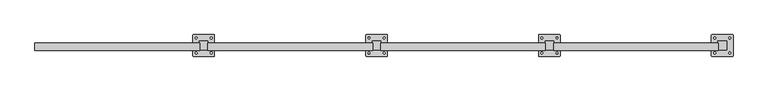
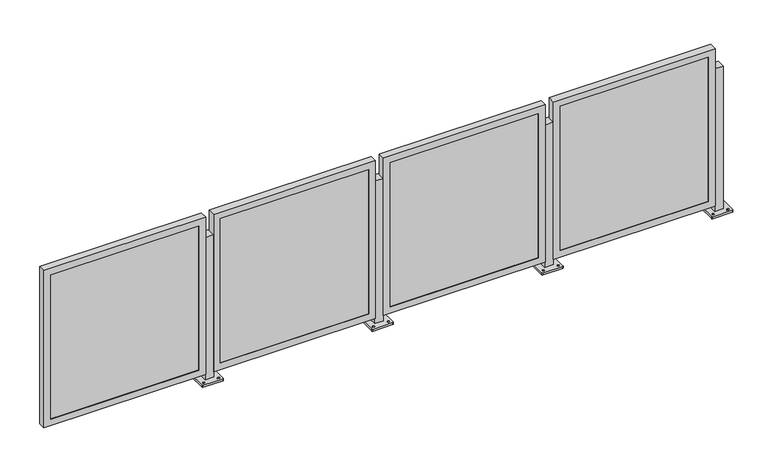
"""IFC4 building model written with IfcOpenShell, lengths in millimetres: railing geometry, Railing - Amico Architectural - Perforated Railing - Sunshade."""

from ifc_helpers import new_model, si_unit, frame, origin, place, context, project, spatial, polyline, circle_curve, outline, extrude, faceted_brep, source, transform, mapped, element, save
from ifc_brep_helpers import plane_surface, cylinder_surface, revolved_surface, advanced_brep


def railing_5091dd00(model_context):
    return source(origin(), model_context, "Body", "SolidModel", [
        advanced_brep(
        [(-3192.9530401, 2085.2064263, 914.4), (-3192.9530401, 2034.4064263, 914.4), (-3142.1530401, 2034.4064263, 914.4), (-3142.1530401, 2085.2064263, 914.4), (-3231.0530403, 1999.4814673, 0.0), (-3231.0530403, 2120.1313853, 0.0), (-3227.8780121, 2123.3064134, 0.0), (-3107.2280681, 2123.3064134, 0.0), (-3104.0530399, 2120.1313853, 0.0), (-3104.0530399, 1999.4814673, 0.0), (-3107.2280681, 1996.3064392, 0.0), (-3227.8780121, 1996.3064392, 0.0), (-3212.0030277, 2009.8001716, 0.0), (-3212.0030277, 2020.9126841, 0.0), (-3212.0030386, 2098.700176, 0.0), (-3212.0030386, 2109.8126576, 0.0), (-3123.1030267, 2009.8001732, 0.0), (-3123.1030267, 2020.9126838, 0.0), (-3123.1030376, 2098.7001776, 0.0), (-3123.1030376, 2109.8126574, 0.0), (-3192.9530401, 2085.2064263, 12.7), (-3192.9530401, 2034.4064263, 12.7), (-3142.1530401, 2034.4064263, 12.7), (-3142.1530401, 2085.2064263, 12.7), (-3231.0530403, 1999.4814673, 12.7), (-3227.8780121, 1996.3064392, 12.7), (-3107.2280681, 1996.3064392, 12.7), (-3104.0530399, 1999.4814673, 12.7), (-3104.0530399, 2120.1313853, 12.7), (-3107.2280681, 2123.3064134, 12.7), (-3227.8780121, 2123.3064134, 12.7), (-3231.0530403, 2120.1313853, 12.7), (-3212.0030277, 2009.8001716, 12.7), (-3212.0030277, 2020.9126841, 12.7), (-3212.0030386, 2098.700176, 12.7), (-3212.0030386, 2109.8126576, 12.7), (-3123.1030267, 2009.8001732, 12.7), (-3123.1030267, 2020.9126838, 12.7), (-3123.1030376, 2098.7001776, 12.7), (-3123.1030376, 2109.8126574, 12.7)],
        [
            (0, 1),
            (1, 2),
            (2, 3),
            (3, 0),
            (4, 5),
            (5, 6, circle_curve(frame((-3227.8780121, 2120.1313853, 0.0), z_axis=(0.0, 0.0, -1.0), x_axis=(0.0, 1.0, 0.0)), 3.1750282)),
            (6, 7),
            (7, 8, circle_curve(frame((-3107.2280681, 2120.1313853, 0.0), z_axis=(0.0, 0.0, -1.0), x_axis=(0.0, 1.0, 0.0)), 3.1750282)),
            (8, 9),
            (9, 10, circle_curve(frame((-3107.2280681, 1999.4814673, 0.0), z_axis=(0.0, 0.0, -1.0), x_axis=(0.0, 1.0, 0.0)), 3.1750282)),
            (10, 11),
            (11, 4, circle_curve(frame((-3227.8780121, 1999.4814673, 0.0), z_axis=(0.0, 0.0, -1.0), x_axis=(0.0, 1.0, 0.0)), 3.1750282)),
            (12, 13, circle_curve(frame((-3212.0030277, 2015.3564279, 0.0), z_axis=(0.0, 0.0, 1.0), x_axis=(0.0, 1.0, 0.0)), 5.5562562)),
            (13, 12, circle_curve(frame((-3212.0030277, 2015.3564279, 0.0), z_axis=(0.0, 0.0, 1.0), x_axis=(0.0, 1.0, 0.0)), 5.5562562)),
            (14, 15, circle_curve(frame((-3212.0030386, 2104.2564168, 0.0), z_axis=(0.0, 0.0, 1.0), x_axis=(0.0, 1.0, 0.0)), 5.5562408)),
            (15, 14, circle_curve(frame((-3212.0030386, 2104.2564168, 0.0), z_axis=(0.0, 0.0, 1.0), x_axis=(0.0, 1.0, 0.0)), 5.5562408)),
            (16, 17, circle_curve(frame((-3123.1030267, 2015.3564285, 0.0), z_axis=(0.0, 0.0, 1.0), x_axis=(0.0, 1.0, 0.0)), 5.5562553)),
            (17, 16, circle_curve(frame((-3123.1030267, 2015.3564285, 0.0), z_axis=(0.0, 0.0, 1.0), x_axis=(0.0, 1.0, 0.0)), 5.5562553)),
            (18, 19, circle_curve(frame((-3123.1030376, 2104.2564175, 0.0), z_axis=(0.0, 0.0, 1.0), x_axis=(0.0, 1.0, 0.0)), 5.5562399)),
            (19, 18, circle_curve(frame((-3123.1030376, 2104.2564175, 0.0), z_axis=(0.0, 0.0, 1.0), x_axis=(0.0, 1.0, 0.0)), 5.5562399)),
            (0, 20),
            (20, 21),
            (21, 1),
            (21, 22),
            (22, 2),
            (22, 23),
            (23, 3),
            (23, 20),
            (24, 25, circle_curve(frame((-3227.8780121, 1999.4814673, 12.7), z_axis=(0.0, 0.0, 1.0), x_axis=(0.0, 1.0, 0.0)), 3.1750282)),
            (25, 26),
            (26, 27, circle_curve(frame((-3107.2280681, 1999.4814673, 12.7), z_axis=(0.0, 0.0, 1.0), x_axis=(0.0, 1.0, 0.0)), 3.1750282)),
            (27, 28),
            (28, 29, circle_curve(frame((-3107.2280681, 2120.1313853, 12.7), z_axis=(0.0, 0.0, 1.0), x_axis=(0.0, 1.0, 0.0)), 3.1750282)),
            (29, 30),
            (30, 31, circle_curve(frame((-3227.8780121, 2120.1313853, 12.7), z_axis=(0.0, 0.0, 1.0), x_axis=(0.0, 1.0, 0.0)), 3.1750282)),
            (31, 24),
            (32, 33, circle_curve(frame((-3212.0030277, 2015.3564279, 12.7), z_axis=(0.0, 0.0, -1.0), x_axis=(0.0, 1.0, 0.0)), 5.5562562)),
            (33, 32, circle_curve(frame((-3212.0030277, 2015.3564279, 12.7), z_axis=(0.0, 0.0, -1.0), x_axis=(0.0, 1.0, 0.0)), 5.5562562)),
            (34, 35, circle_curve(frame((-3212.0030386, 2104.2564168, 12.7), z_axis=(0.0, 0.0, -1.0), x_axis=(0.0, 1.0, 0.0)), 5.5562408)),
            (35, 34, circle_curve(frame((-3212.0030386, 2104.2564168, 12.7), z_axis=(0.0, 0.0, -1.0), x_axis=(0.0, 1.0, 0.0)), 5.5562408)),
            (36, 37, circle_curve(frame((-3123.1030267, 2015.3564285, 12.7), z_axis=(0.0, 0.0, -1.0), x_axis=(0.0, 1.0, 0.0)), 5.5562553)),
            (37, 36, circle_curve(frame((-3123.1030267, 2015.3564285, 12.7), z_axis=(0.0, 0.0, -1.0), x_axis=(0.0, 1.0, 0.0)), 5.5562553)),
            (38, 39, circle_curve(frame((-3123.1030376, 2104.2564175, 12.7), z_axis=(0.0, 0.0, -1.0), x_axis=(0.0, 1.0, 0.0)), 5.5562399)),
            (39, 38, circle_curve(frame((-3123.1030376, 2104.2564175, 12.7), z_axis=(0.0, 0.0, -1.0), x_axis=(0.0, 1.0, 0.0)), 5.5562399)),
            (24, 4),
            (11, 25),
            (10, 26),
            (9, 27),
            (8, 28),
            (7, 29),
            (6, 30),
            (5, 31),
            (32, 12),
            (13, 33),
            (34, 14),
            (15, 35),
            (36, 16),
            (17, 37),
            (38, 18),
            (19, 39),
        ],
        [
            plane_surface(frame((-3192.9530401, 2034.4064263, 914.4), z_axis=(0.0, 0.0, 1.0), x_axis=(0.0, -1.0, 0.0))),
            plane_surface(frame((-3192.9530401, 2034.4064263, 0.0), z_axis=(0.0, 0.0, -1.0), x_axis=(0.0, 1.0, 0.0))),
            plane_surface(frame((-3192.9530401, 2085.2064263, 914.4), z_axis=(-1.0, 0.0, 0.0), x_axis=(0.0, 0.0, -1.0))),
            plane_surface(frame((-3192.9530401, 2034.4064263, 914.4), z_axis=(0.0, -1.0, 0.0), x_axis=(0.0, 0.0, -1.0))),
            plane_surface(frame((-3142.1530401, 2034.4064263, 914.4), z_axis=(1.0, 0.0, 0.0), x_axis=(0.0, 0.0, -1.0))),
            plane_surface(frame((-3142.1530401, 2085.2064263, 914.4), z_axis=(0.0, 1.0, 0.0), x_axis=(0.0, 0.0, -1.0))),
            plane_surface(frame((-3227.8780121, 2002.6564955, 12.7), z_axis=(0.0, 0.0, 1.0), x_axis=(-1.0, 0.0, 0.0))),
            cylinder_surface(frame((-3227.8780121, 1999.4814673, 0.0), z_axis=(0.0, 0.0, 1.0), x_axis=(0.0, 1.0, 0.0)), 3.1750282),
            plane_surface(frame((-3227.8780121, 1996.3064392, 12.7), z_axis=(1.1945386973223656e-12, -1.0, 0.0), x_axis=(0.0, 0.0, -1.0))),
            cylinder_surface(frame((-3107.2280681, 1999.4814673, 0.0), z_axis=(0.0, 0.0, 1.0), x_axis=(0.0, 1.0, 0.0)), 3.1750282),
            plane_surface(frame((-3104.0530399, 1999.4814673, 12.7), z_axis=(1.0, 0.0, 0.0), x_axis=(0.0, 0.0, -1.0))),
            cylinder_surface(frame((-3107.2280681, 2120.1313853, 0.0), z_axis=(0.0, 0.0, 1.0), x_axis=(0.0, 1.0, 0.0)), 3.1750282),
            plane_surface(frame((-3107.2280681, 2123.3064134, 12.7), z_axis=(-1.1946088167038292e-12, 1.0, 0.0), x_axis=(0.0, 0.0, -1.0))),
            cylinder_surface(frame((-3227.8780121, 2120.1313853, 0.0), z_axis=(0.0, 0.0, 1.0), x_axis=(0.0, 1.0, 0.0)), 3.1750282),
            plane_surface(frame((-3231.0530403, 2120.1313853, 12.7), z_axis=(-1.0, 0.0, 0.0), x_axis=(0.0, 0.0, -1.0))),
            revolved_surface(polyline([(-3212.0030277, 2020.9126841, 0.0), (-3212.0030277, 2020.9126841, 12.7)]), (-3212.0030277, 2015.3564279, 0.0), (0.0, 0.0, -1.0)),
            revolved_surface(polyline([(-3212.0030386, 2109.8126576, 0.0), (-3212.0030386, 2109.8126576, 12.7)]), (-3212.0030386, 2104.2564168, 0.0), (0.0, 0.0, -1.0)),
            revolved_surface(polyline([(-3123.1030267, 2020.9126838, 0.0), (-3123.1030267, 2020.9126838, 12.7)]), (-3123.1030267, 2015.3564285, 0.0), (0.0, 0.0, -1.0)),
            revolved_surface(polyline([(-3123.1030376, 2109.8126574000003, 0.0), (-3123.1030376, 2109.8126574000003, 12.7)]), (-3123.1030376, 2104.2564175, 0.0), (0.0, 0.0, -1.0)),
        ],
        [
            (0, [[1, 2, 3, 4]]),
            (1, [[5, 6, 7, 8, 9, 10, 11, 12], [13, 14], [15, 16], [17, 18], [19, 20]]),
            (2, [[-1, 21, 22, 23]]),
            (3, [[-2, -23, 24, 25]]),
            (4, [[-3, -25, 26, 27]]),
            (5, [[-4, -27, 28, -21]]),
            (6, [[29, 30, 31, 32, 33, 34, 35, 36], [-22, -28, -26, -24], [37, 38], [39, 40], [41, 42], [43, 44]]),
            (7, [[-29, 45, -12, 46]]),
            (8, [[-30, -46, -11, 47]]),
            (9, [[-31, -47, -10, 48]]),
            (10, [[-32, -48, -9, 49]]),
            (11, [[-33, -49, -8, 50]]),
            (12, [[-34, -50, -7, 51]]),
            (13, [[-35, -51, -6, 52]]),
            (14, [[-36, -52, -5, -45]]),
            (15, [[-37, 53, -14, 54]]),
            (15, [[-38, -54, -13, -53]]),
            (16, [[-39, 55, -16, 56]]),
            (16, [[-40, -56, -15, -55]]),
            (17, [[-41, 57, -18, 58]]),
            (17, [[-42, -58, -17, -57]]),
            (18, [[-43, 59, -20, 60]]),
            (18, [[-44, -60, -19, -59]]),
        ],
    ),
        faceted_brep([(-4159.3574935, 2031.6632263, 47.625), (-3190.9824935, 2031.6632263, 47.625), (-3190.9824935, 2031.6632263, 1044.575), (-4159.3574935, 2031.6632263, 1044.575), (-4118.0824935, 2031.6632263, 1003.3), (-3232.2574935, 2031.6632263, 1003.3), (-3232.2574935, 2031.6632263, 88.9), (-4118.0824935, 2031.6632263, 88.9), (-4118.0824935, 2034.4064263, 1003.3), (-4118.0824935, 2034.4064263, 88.9), (-4159.3574935, 2075.5365228, 1044.575), (-4159.3574935, 2075.5365228, 47.625), (-4156.1824935, 2075.5365228, 1041.4), (-4156.1824935, 2034.4064263, 1041.4), (-4156.1824935, 2034.4064263, 50.8), (-4156.1824935, 2075.5365228, 50.8), (-3232.2574935, 2034.4064263, 88.9), (-3190.9824935, 2075.5365228, 47.625), (-3194.1574935, 2034.4064263, 50.8), (-3194.1574935, 2075.5365228, 50.8), (-3232.2574935, 2034.4064263, 1003.3), (-3190.9824935, 2075.5365228, 1044.575), (-3194.1574935, 2034.4064263, 1041.4), (-3194.1574935, 2075.5365228, 1041.4)], [[[0, 1, 2, 3], [4, 5, 6, 7]], [[8, 4, 7, 9]], [[3, 10, 11, 0]], [[12, 13, 14, 15]], [[9, 7, 6, 16]], [[0, 11, 17, 1]], [[15, 14, 18, 19]], [[16, 6, 5, 20]], [[1, 17, 21, 2]], [[19, 18, 22, 23]], [[20, 5, 4, 8]], [[10, 21, 17, 11], [15, 19, 23, 12]], [[2, 21, 10, 3]], [[13, 22, 18, 14], [9, 16, 20, 8]], [[23, 22, 13, 12]]]),
        extrude(outline(polyline([(-4156.1824935, 2043.9314263), (-3194.1574935, 2043.9314263), (-3194.1574935, 2034.4064263), (-4156.1824935, 2034.4064263), (-4156.1824935, 2043.9314263)])), frame((0.0, 0.0, 50.8), z_axis=(0.0, 0.0, 1.0), x_axis=(1.0, 0.0, 0.0)), (0.0, 0.0, 1.0), 990.6),
        advanced_brep(
        [(-4208.9530401, 2085.2064263, 914.4), (-4208.9530401, 2034.4064263, 914.4), (-4158.1530401, 2034.4064263, 914.4), (-4158.1530401, 2085.2064263, 914.4), (-4247.0530403, 1999.4814673, 0.0), (-4247.0530403, 2120.1313853, 0.0), (-4243.8780121, 2123.3064134, 0.0), (-4123.2280681, 2123.3064134, 0.0), (-4120.0530399, 2120.1313853, 0.0), (-4120.0530399, 1999.4814673, 0.0), (-4123.2280681, 1996.3064392, 0.0), (-4243.8780121, 1996.3064392, 0.0), (-4228.0030277, 2009.8001716, 0.0), (-4228.0030277, 2020.9126841, 0.0), (-4228.0030386, 2098.700176, 0.0), (-4228.0030386, 2109.8126576, 0.0), (-4139.1030267, 2009.8001732, 0.0), (-4139.1030267, 2020.9126838, 0.0), (-4139.1030376, 2098.7001776, 0.0), (-4139.1030376, 2109.8126574, 0.0), (-4208.9530401, 2085.2064263, 12.7), (-4208.9530401, 2034.4064263, 12.7), (-4158.1530401, 2034.4064263, 12.7), (-4158.1530401, 2085.2064263, 12.7), (-4247.0530403, 1999.4814673, 12.7), (-4243.8780121, 1996.3064392, 12.7), (-4123.2280681, 1996.3064392, 12.7), (-4120.0530399, 1999.4814673, 12.7), (-4120.0530399, 2120.1313853, 12.7), (-4123.2280681, 2123.3064134, 12.7), (-4243.8780121, 2123.3064134, 12.7), (-4247.0530403, 2120.1313853, 12.7), (-4228.0030277, 2009.8001716, 12.7), (-4228.0030277, 2020.9126841, 12.7), (-4228.0030386, 2098.700176, 12.7), (-4228.0030386, 2109.8126576, 12.7), (-4139.1030267, 2009.8001732, 12.7), (-4139.1030267, 2020.9126838, 12.7), (-4139.1030376, 2098.7001776, 12.7), (-4139.1030376, 2109.8126574, 12.7)],
        [
            (0, 1),
            (1, 2),
            (2, 3),
            (3, 0),
            (4, 5),
            (5, 6, circle_curve(frame((-4243.8780121, 2120.1313853, 0.0), z_axis=(0.0, 0.0, -1.0), x_axis=(0.0, 1.0, 0.0)), 3.1750282)),
            (6, 7),
            (7, 8, circle_curve(frame((-4123.2280681, 2120.1313853, 0.0), z_axis=(0.0, 0.0, -1.0), x_axis=(0.0, 1.0, 0.0)), 3.1750282)),
            (8, 9),
            (9, 10, circle_curve(frame((-4123.2280681, 1999.4814673, 0.0), z_axis=(0.0, 0.0, -1.0), x_axis=(0.0, 1.0, 0.0)), 3.1750282)),
            (10, 11),
            (11, 4, circle_curve(frame((-4243.8780121, 1999.4814673, 0.0), z_axis=(0.0, 0.0, -1.0), x_axis=(0.0, 1.0, 0.0)), 3.1750282)),
            (12, 13, circle_curve(frame((-4228.0030277, 2015.3564279, 0.0), z_axis=(0.0, 0.0, 1.0), x_axis=(0.0, 1.0, 0.0)), 5.5562562)),
            (13, 12, circle_curve(frame((-4228.0030277, 2015.3564279, 0.0), z_axis=(0.0, 0.0, 1.0), x_axis=(0.0, 1.0, 0.0)), 5.5562562)),
            (14, 15, circle_curve(frame((-4228.0030386, 2104.2564168, 0.0), z_axis=(0.0, 0.0, 1.0), x_axis=(0.0, 1.0, 0.0)), 5.5562408)),
            (15, 14, circle_curve(frame((-4228.0030386, 2104.2564168, 0.0), z_axis=(0.0, 0.0, 1.0), x_axis=(0.0, 1.0, 0.0)), 5.5562408)),
            (16, 17, circle_curve(frame((-4139.1030267, 2015.3564285, 0.0), z_axis=(0.0, 0.0, 1.0), x_axis=(0.0, 1.0, 0.0)), 5.5562553)),
            (17, 16, circle_curve(frame((-4139.1030267, 2015.3564285, 0.0), z_axis=(0.0, 0.0, 1.0), x_axis=(0.0, 1.0, 0.0)), 5.5562553)),
            (18, 19, circle_curve(frame((-4139.1030376, 2104.2564175, 0.0), z_axis=(0.0, 0.0, 1.0), x_axis=(0.0, 1.0, 0.0)), 5.5562399)),
            (19, 18, circle_curve(frame((-4139.1030376, 2104.2564175, 0.0), z_axis=(0.0, 0.0, 1.0), x_axis=(0.0, 1.0, 0.0)), 5.5562399)),
            (0, 20),
            (20, 21),
            (21, 1),
            (21, 22),
            (22, 2),
            (22, 23),
            (23, 3),
            (23, 20),
            (24, 25, circle_curve(frame((-4243.8780121, 1999.4814673, 12.7), z_axis=(0.0, 0.0, 1.0), x_axis=(0.0, 1.0, 0.0)), 3.1750282)),
            (25, 26),
            (26, 27, circle_curve(frame((-4123.2280681, 1999.4814673, 12.7), z_axis=(0.0, 0.0, 1.0), x_axis=(0.0, 1.0, 0.0)), 3.1750282)),
            (27, 28),
            (28, 29, circle_curve(frame((-4123.2280681, 2120.1313853, 12.7), z_axis=(0.0, 0.0, 1.0), x_axis=(0.0, 1.0, 0.0)), 3.1750282)),
            (29, 30),
            (30, 31, circle_curve(frame((-4243.8780121, 2120.1313853, 12.7), z_axis=(0.0, 0.0, 1.0), x_axis=(0.0, 1.0, 0.0)), 3.1750282)),
            (31, 24),
            (32, 33, circle_curve(frame((-4228.0030277, 2015.3564279, 12.7), z_axis=(0.0, 0.0, -1.0), x_axis=(0.0, 1.0, 0.0)), 5.5562562)),
            (33, 32, circle_curve(frame((-4228.0030277, 2015.3564279, 12.7), z_axis=(0.0, 0.0, -1.0), x_axis=(0.0, 1.0, 0.0)), 5.5562562)),
            (34, 35, circle_curve(frame((-4228.0030386, 2104.2564168, 12.7), z_axis=(0.0, 0.0, -1.0), x_axis=(0.0, 1.0, 0.0)), 5.5562408)),
            (35, 34, circle_curve(frame((-4228.0030386, 2104.2564168, 12.7), z_axis=(0.0, 0.0, -1.0), x_axis=(0.0, 1.0, 0.0)), 5.5562408)),
            (36, 37, circle_curve(frame((-4139.1030267, 2015.3564285, 12.7), z_axis=(0.0, 0.0, -1.0), x_axis=(0.0, 1.0, 0.0)), 5.5562553)),
            (37, 36, circle_curve(frame((-4139.1030267, 2015.3564285, 12.7), z_axis=(0.0, 0.0, -1.0), x_axis=(0.0, 1.0, 0.0)), 5.5562553)),
            (38, 39, circle_curve(frame((-4139.1030376, 2104.2564175, 12.7), z_axis=(0.0, 0.0, -1.0), x_axis=(0.0, 1.0, 0.0)), 5.5562399)),
            (39, 38, circle_curve(frame((-4139.1030376, 2104.2564175, 12.7), z_axis=(0.0, 0.0, -1.0), x_axis=(0.0, 1.0, 0.0)), 5.5562399)),
            (24, 4),
            (11, 25),
            (10, 26),
            (9, 27),
            (8, 28),
            (7, 29),
            (6, 30),
            (5, 31),
            (32, 12),
            (13, 33),
            (34, 14),
            (15, 35),
            (36, 16),
            (17, 37),
            (38, 18),
            (19, 39),
        ],
        [
            plane_surface(frame((-4208.9530401, 2034.4064263, 914.4), z_axis=(0.0, 0.0, 1.0), x_axis=(0.0, -1.0, 0.0))),
            plane_surface(frame((-4208.9530401, 2034.4064263, 0.0), z_axis=(0.0, 0.0, -1.0), x_axis=(0.0, 1.0, 0.0))),
            plane_surface(frame((-4208.9530401, 2085.2064263, 914.4), z_axis=(-1.0, 0.0, 0.0), x_axis=(0.0, 0.0, -1.0))),
            plane_surface(frame((-4208.9530401, 2034.4064263, 914.4), z_axis=(0.0, -1.0, 0.0), x_axis=(0.0, 0.0, -1.0))),
            plane_surface(frame((-4158.1530401, 2034.4064263, 914.4), z_axis=(1.0, 0.0, 0.0), x_axis=(0.0, 0.0, -1.0))),
            plane_surface(frame((-4158.1530401, 2085.2064263, 914.4), z_axis=(0.0, 1.0, 0.0), x_axis=(0.0, 0.0, -1.0))),
            plane_surface(frame((-4243.8780121, 2002.6564955, 12.7), z_axis=(0.0, 0.0, 1.0), x_axis=(-1.0, 0.0, 0.0))),
            cylinder_surface(frame((-4243.8780121, 1999.4814673, 0.0), z_axis=(0.0, 0.0, 1.0), x_axis=(0.0, 1.0, 0.0)), 3.1750282),
            plane_surface(frame((-4243.8780121, 1996.3064392, 12.7), z_axis=(1.1945386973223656e-12, -1.0, 0.0), x_axis=(0.0, 0.0, -1.0))),
            cylinder_surface(frame((-4123.2280681, 1999.4814673, 0.0), z_axis=(0.0, 0.0, 1.0), x_axis=(0.0, 1.0, 0.0)), 3.1750282),
            plane_surface(frame((-4120.0530399, 1999.4814673, 12.7), z_axis=(1.0, 0.0, 0.0), x_axis=(0.0, 0.0, -1.0))),
            cylinder_surface(frame((-4123.2280681, 2120.1313853, 0.0), z_axis=(0.0, 0.0, 1.0), x_axis=(0.0, 1.0, 0.0)), 3.1750282),
            plane_surface(frame((-4123.2280681, 2123.3064134, 12.7), z_axis=(-1.1946088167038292e-12, 1.0, 0.0), x_axis=(0.0, 0.0, -1.0))),
            cylinder_surface(frame((-4243.8780121, 2120.1313853, 0.0), z_axis=(0.0, 0.0, 1.0), x_axis=(0.0, 1.0, 0.0)), 3.1750282),
            plane_surface(frame((-4247.0530403, 2120.1313853, 12.7), z_axis=(-1.0, 0.0, 0.0), x_axis=(0.0, 0.0, -1.0))),
            revolved_surface(polyline([(-4228.0030277, 2020.9126841, 0.0), (-4228.0030277, 2020.9126841, 12.7)]), (-4228.0030277, 2015.3564279, 0.0), (0.0, 0.0, -1.0)),
            revolved_surface(polyline([(-4228.0030386, 2109.8126576, 0.0), (-4228.0030386, 2109.8126576, 12.7)]), (-4228.0030386, 2104.2564168, 0.0), (0.0, 0.0, -1.0)),
            revolved_surface(polyline([(-4139.1030267, 2020.9126838, 0.0), (-4139.1030267, 2020.9126838, 12.7)]), (-4139.1030267, 2015.3564285, 0.0), (0.0, 0.0, -1.0)),
            revolved_surface(polyline([(-4139.1030376, 2109.8126574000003, 0.0), (-4139.1030376, 2109.8126574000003, 12.7)]), (-4139.1030376, 2104.2564175, 0.0), (0.0, 0.0, -1.0)),
        ],
        [
            (0, [[1, 2, 3, 4]]),
            (1, [[5, 6, 7, 8, 9, 10, 11, 12], [13, 14], [15, 16], [17, 18], [19, 20]]),
            (2, [[-1, 21, 22, 23]]),
            (3, [[-2, -23, 24, 25]]),
            (4, [[-3, -25, 26, 27]]),
            (5, [[-4, -27, 28, -21]]),
            (6, [[29, 30, 31, 32, 33, 34, 35, 36], [-22, -28, -26, -24], [37, 38], [39, 40], [41, 42], [43, 44]]),
            (7, [[-29, 45, -12, 46]]),
            (8, [[-30, -46, -11, 47]]),
            (9, [[-31, -47, -10, 48]]),
            (10, [[-32, -48, -9, 49]]),
            (11, [[-33, -49, -8, 50]]),
            (12, [[-34, -50, -7, 51]]),
            (13, [[-35, -51, -6, 52]]),
            (14, [[-36, -52, -5, -45]]),
            (15, [[-37, 53, -14, 54]]),
            (15, [[-38, -54, -13, -53]]),
            (16, [[-39, 55, -16, 56]]),
            (16, [[-40, -56, -15, -55]]),
            (17, [[-41, 57, -18, 58]]),
            (17, [[-42, -58, -17, -57]]),
            (18, [[-43, 59, -20, 60]]),
            (18, [[-44, -60, -19, -59]]),
        ],
    ),
        faceted_brep([(-5175.3574935, 2031.6632263, 47.625), (-4206.9824935, 2031.6632263, 47.625), (-4206.9824935, 2031.6632263, 1044.575), (-5175.3574935, 2031.6632263, 1044.575), (-5134.0824935, 2031.6632263, 1003.3), (-4248.2574935, 2031.6632263, 1003.3), (-4248.2574935, 2031.6632263, 88.9), (-5134.0824935, 2031.6632263, 88.9), (-5134.0824935, 2034.4064263, 1003.3), (-5134.0824935, 2034.4064263, 88.9), (-5175.3574935, 2075.5365228, 1044.575), (-5175.3574935, 2075.5365228, 47.625), (-5172.1824935, 2075.5365228, 1041.4), (-5172.1824935, 2034.4064263, 1041.4), (-5172.1824935, 2034.4064263, 50.8), (-5172.1824935, 2075.5365228, 50.8), (-4248.2574935, 2034.4064263, 88.9), (-4206.9824935, 2075.5365228, 47.625), (-4210.1574935, 2034.4064263, 50.8), (-4210.1574935, 2075.5365228, 50.8), (-4248.2574935, 2034.4064263, 1003.3), (-4206.9824935, 2075.5365228, 1044.575), (-4210.1574935, 2034.4064263, 1041.4), (-4210.1574935, 2075.5365228, 1041.4)], [[[0, 1, 2, 3], [4, 5, 6, 7]], [[8, 4, 7, 9]], [[3, 10, 11, 0]], [[12, 13, 14, 15]], [[9, 7, 6, 16]], [[0, 11, 17, 1]], [[15, 14, 18, 19]], [[16, 6, 5, 20]], [[1, 17, 21, 2]], [[19, 18, 22, 23]], [[20, 5, 4, 8]], [[10, 21, 17, 11], [15, 19, 23, 12]], [[2, 21, 10, 3]], [[13, 22, 18, 14], [9, 16, 20, 8]], [[23, 22, 13, 12]]]),
        extrude(outline(polyline([(-5172.1824935, 2043.9314263), (-4210.1574935, 2043.9314263), (-4210.1574935, 2034.4064263), (-5172.1824935, 2034.4064263), (-5172.1824935, 2043.9314263)])), frame((0.0, 0.0, 50.8), z_axis=(0.0, 0.0, 1.0), x_axis=(1.0, 0.0, 0.0)), (0.0, 0.0, 1.0), 990.6),
        advanced_brep(
        [(-5224.9530401, 2085.2064263, 914.4), (-5224.9530401, 2034.4064263, 914.4), (-5174.1530401, 2034.4064263, 914.4), (-5174.1530401, 2085.2064263, 914.4), (-5263.0530403, 1999.4814673, 0.0), (-5263.0530403, 2120.1313853, 0.0), (-5259.8780121, 2123.3064134, 0.0), (-5139.2280681, 2123.3064134, 0.0), (-5136.0530399, 2120.1313853, 0.0), (-5136.0530399, 1999.4814673, 0.0), (-5139.2280681, 1996.3064392, 0.0), (-5259.8780121, 1996.3064392, 0.0), (-5244.0030277, 2009.8001716, 0.0), (-5244.0030277, 2020.9126841, 0.0), (-5244.0030386, 2098.700176, 0.0), (-5244.0030386, 2109.8126576, 0.0), (-5155.1030267, 2009.8001732, 0.0), (-5155.1030267, 2020.9126838, 0.0), (-5155.1030376, 2098.7001776, 0.0), (-5155.1030376, 2109.8126574, 0.0), (-5224.9530401, 2085.2064263, 12.7), (-5224.9530401, 2034.4064263, 12.7), (-5174.1530401, 2034.4064263, 12.7), (-5174.1530401, 2085.2064263, 12.7), (-5263.0530403, 1999.4814673, 12.7), (-5259.8780121, 1996.3064392, 12.7), (-5139.2280681, 1996.3064392, 12.7), (-5136.0530399, 1999.4814673, 12.7), (-5136.0530399, 2120.1313853, 12.7), (-5139.2280681, 2123.3064134, 12.7), (-5259.8780121, 2123.3064134, 12.7), (-5263.0530403, 2120.1313853, 12.7), (-5244.0030277, 2009.8001716, 12.7), (-5244.0030277, 2020.9126841, 12.7), (-5244.0030386, 2098.700176, 12.7), (-5244.0030386, 2109.8126576, 12.7), (-5155.1030267, 2009.8001732, 12.7), (-5155.1030267, 2020.9126838, 12.7), (-5155.1030376, 2098.7001776, 12.7), (-5155.1030376, 2109.8126574, 12.7)],
        [
            (0, 1),
            (1, 2),
            (2, 3),
            (3, 0),
            (4, 5),
            (5, 6, circle_curve(frame((-5259.8780121, 2120.1313853, 0.0), z_axis=(0.0, 0.0, -1.0), x_axis=(0.0, 1.0, 0.0)), 3.1750282)),
            (6, 7),
            (7, 8, circle_curve(frame((-5139.2280681, 2120.1313853, 0.0), z_axis=(0.0, 0.0, -1.0), x_axis=(0.0, 1.0, 0.0)), 3.1750282)),
            (8, 9),
            (9, 10, circle_curve(frame((-5139.2280681, 1999.4814673, 0.0), z_axis=(0.0, 0.0, -1.0), x_axis=(0.0, 1.0, 0.0)), 3.1750282)),
            (10, 11),
            (11, 4, circle_curve(frame((-5259.8780121, 1999.4814673, 0.0), z_axis=(0.0, 0.0, -1.0), x_axis=(0.0, 1.0, 0.0)), 3.1750282)),
            (12, 13, circle_curve(frame((-5244.0030277, 2015.3564279, 0.0), z_axis=(0.0, 0.0, 1.0), x_axis=(0.0, 1.0, 0.0)), 5.5562562)),
            (13, 12, circle_curve(frame((-5244.0030277, 2015.3564279, 0.0), z_axis=(0.0, 0.0, 1.0), x_axis=(0.0, 1.0, 0.0)), 5.5562562)),
            (14, 15, circle_curve(frame((-5244.0030386, 2104.2564168, 0.0), z_axis=(0.0, 0.0, 1.0), x_axis=(0.0, 1.0, 0.0)), 5.5562408)),
            (15, 14, circle_curve(frame((-5244.0030386, 2104.2564168, 0.0), z_axis=(0.0, 0.0, 1.0), x_axis=(0.0, 1.0, 0.0)), 5.5562408)),
            (16, 17, circle_curve(frame((-5155.1030267, 2015.3564285, 0.0), z_axis=(0.0, 0.0, 1.0), x_axis=(0.0, 1.0, 0.0)), 5.5562553)),
            (17, 16, circle_curve(frame((-5155.1030267, 2015.3564285, 0.0), z_axis=(0.0, 0.0, 1.0), x_axis=(0.0, 1.0, 0.0)), 5.5562553)),
            (18, 19, circle_curve(frame((-5155.1030376, 2104.2564175, 0.0), z_axis=(0.0, 0.0, 1.0), x_axis=(0.0, 1.0, 0.0)), 5.5562399)),
            (19, 18, circle_curve(frame((-5155.1030376, 2104.2564175, 0.0), z_axis=(0.0, 0.0, 1.0), x_axis=(0.0, 1.0, 0.0)), 5.5562399)),
            (0, 20),
            (20, 21),
            (21, 1),
            (21, 22),
            (22, 2),
            (22, 23),
            (23, 3),
            (23, 20),
            (24, 25, circle_curve(frame((-5259.8780121, 1999.4814673, 12.7), z_axis=(0.0, 0.0, 1.0), x_axis=(0.0, 1.0, 0.0)), 3.1750282)),
            (25, 26),
            (26, 27, circle_curve(frame((-5139.2280681, 1999.4814673, 12.7), z_axis=(0.0, 0.0, 1.0), x_axis=(0.0, 1.0, 0.0)), 3.1750282)),
            (27, 28),
            (28, 29, circle_curve(frame((-5139.2280681, 2120.1313853, 12.7), z_axis=(0.0, 0.0, 1.0), x_axis=(0.0, 1.0, 0.0)), 3.1750282)),
            (29, 30),
            (30, 31, circle_curve(frame((-5259.8780121, 2120.1313853, 12.7), z_axis=(0.0, 0.0, 1.0), x_axis=(0.0, 1.0, 0.0)), 3.1750282)),
            (31, 24),
            (32, 33, circle_curve(frame((-5244.0030277, 2015.3564279, 12.7), z_axis=(0.0, 0.0, -1.0), x_axis=(0.0, 1.0, 0.0)), 5.5562562)),
            (33, 32, circle_curve(frame((-5244.0030277, 2015.3564279, 12.7), z_axis=(0.0, 0.0, -1.0), x_axis=(0.0, 1.0, 0.0)), 5.5562562)),
            (34, 35, circle_curve(frame((-5244.0030386, 2104.2564168, 12.7), z_axis=(0.0, 0.0, -1.0), x_axis=(0.0, 1.0, 0.0)), 5.5562408)),
            (35, 34, circle_curve(frame((-5244.0030386, 2104.2564168, 12.7), z_axis=(0.0, 0.0, -1.0), x_axis=(0.0, 1.0, 0.0)), 5.5562408)),
            (36, 37, circle_curve(frame((-5155.1030267, 2015.3564285, 12.7), z_axis=(0.0, 0.0, -1.0), x_axis=(0.0, 1.0, 0.0)), 5.5562553)),
            (37, 36, circle_curve(frame((-5155.1030267, 2015.3564285, 12.7), z_axis=(0.0, 0.0, -1.0), x_axis=(0.0, 1.0, 0.0)), 5.5562553)),
            (38, 39, circle_curve(frame((-5155.1030376, 2104.2564175, 12.7), z_axis=(0.0, 0.0, -1.0), x_axis=(0.0, 1.0, 0.0)), 5.5562399)),
            (39, 38, circle_curve(frame((-5155.1030376, 2104.2564175, 12.7), z_axis=(0.0, 0.0, -1.0), x_axis=(0.0, 1.0, 0.0)), 5.5562399)),
            (24, 4),
            (11, 25),
            (10, 26),
            (9, 27),
            (8, 28),
            (7, 29),
            (6, 30),
            (5, 31),
            (32, 12),
            (13, 33),
            (34, 14),
            (15, 35),
            (36, 16),
            (17, 37),
            (38, 18),
            (19, 39),
        ],
        [
            plane_surface(frame((-5224.9530401, 2034.4064263, 914.4), z_axis=(0.0, 0.0, 1.0), x_axis=(0.0, -1.0, 0.0))),
            plane_surface(frame((-5224.9530401, 2034.4064263, 0.0), z_axis=(0.0, 0.0, -1.0), x_axis=(0.0, 1.0, 0.0))),
            plane_surface(frame((-5224.9530401, 2085.2064263, 914.4), z_axis=(-1.0, 0.0, 0.0), x_axis=(0.0, 0.0, -1.0))),
            plane_surface(frame((-5224.9530401, 2034.4064263, 914.4), z_axis=(0.0, -1.0, 0.0), x_axis=(0.0, 0.0, -1.0))),
            plane_surface(frame((-5174.1530401, 2034.4064263, 914.4), z_axis=(1.0, 0.0, 0.0), x_axis=(0.0, 0.0, -1.0))),
            plane_surface(frame((-5174.1530401, 2085.2064263, 914.4), z_axis=(0.0, 1.0, 0.0), x_axis=(0.0, 0.0, -1.0))),
            plane_surface(frame((-5259.8780121, 2002.6564955, 12.7), z_axis=(0.0, 0.0, 1.0), x_axis=(-1.0, 0.0, 0.0))),
            cylinder_surface(frame((-5259.8780121, 1999.4814673, 0.0), z_axis=(0.0, 0.0, 1.0), x_axis=(0.0, 1.0, 0.0)), 3.1750282),
            plane_surface(frame((-5259.8780121, 1996.3064392, 12.7), z_axis=(1.1945386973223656e-12, -1.0, 0.0), x_axis=(0.0, 0.0, -1.0))),
            cylinder_surface(frame((-5139.2280681, 1999.4814673, 0.0), z_axis=(0.0, 0.0, 1.0), x_axis=(0.0, 1.0, 0.0)), 3.1750282),
            plane_surface(frame((-5136.0530399, 1999.4814673, 12.7), z_axis=(1.0, 0.0, 0.0), x_axis=(0.0, 0.0, -1.0))),
            cylinder_surface(frame((-5139.2280681, 2120.1313853, 0.0), z_axis=(0.0, 0.0, 1.0), x_axis=(0.0, 1.0, 0.0)), 3.1750282),
            plane_surface(frame((-5139.2280681, 2123.3064134, 12.7), z_axis=(-1.1946088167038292e-12, 1.0, 0.0), x_axis=(0.0, 0.0, -1.0))),
            cylinder_surface(frame((-5259.8780121, 2120.1313853, 0.0), z_axis=(0.0, 0.0, 1.0), x_axis=(0.0, 1.0, 0.0)), 3.1750282),
            plane_surface(frame((-5263.0530403, 2120.1313853, 12.7), z_axis=(-1.0, 0.0, 0.0), x_axis=(0.0, 0.0, -1.0))),
            revolved_surface(polyline([(-5244.0030277, 2020.9126841, 0.0), (-5244.0030277, 2020.9126841, 12.7)]), (-5244.0030277, 2015.3564279, 0.0), (0.0, 0.0, -1.0)),
            revolved_surface(polyline([(-5244.0030386, 2109.8126576, 0.0), (-5244.0030386, 2109.8126576, 12.7)]), (-5244.0030386, 2104.2564168, 0.0), (0.0, 0.0, -1.0)),
            revolved_surface(polyline([(-5155.1030267, 2020.9126838, 0.0), (-5155.1030267, 2020.9126838, 12.7)]), (-5155.1030267, 2015.3564285, 0.0), (0.0, 0.0, -1.0)),
            revolved_surface(polyline([(-5155.1030376, 2109.8126574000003, 0.0), (-5155.1030376, 2109.8126574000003, 12.7)]), (-5155.1030376, 2104.2564175, 0.0), (0.0, 0.0, -1.0)),
        ],
        [
            (0, [[1, 2, 3, 4]]),
            (1, [[5, 6, 7, 8, 9, 10, 11, 12], [13, 14], [15, 16], [17, 18], [19, 20]]),
            (2, [[-1, 21, 22, 23]]),
            (3, [[-2, -23, 24, 25]]),
            (4, [[-3, -25, 26, 27]]),
            (5, [[-4, -27, 28, -21]]),
            (6, [[29, 30, 31, 32, 33, 34, 35, 36], [-22, -28, -26, -24], [37, 38], [39, 40], [41, 42], [43, 44]]),
            (7, [[-29, 45, -12, 46]]),
            (8, [[-30, -46, -11, 47]]),
            (9, [[-31, -47, -10, 48]]),
            (10, [[-32, -48, -9, 49]]),
            (11, [[-33, -49, -8, 50]]),
            (12, [[-34, -50, -7, 51]]),
            (13, [[-35, -51, -6, 52]]),
            (14, [[-36, -52, -5, -45]]),
            (15, [[-37, 53, -14, 54]]),
            (15, [[-38, -54, -13, -53]]),
            (16, [[-39, 55, -16, 56]]),
            (16, [[-40, -56, -15, -55]]),
            (17, [[-41, 57, -18, 58]]),
            (17, [[-42, -58, -17, -57]]),
            (18, [[-43, 59, -20, 60]]),
            (18, [[-44, -60, -19, -59]]),
        ],
    ),
        faceted_brep([(-6191.3574935, 2031.6632263, 47.625), (-5222.9824935, 2031.6632263, 47.625), (-5222.9824935, 2031.6632263, 1044.575), (-6191.3574935, 2031.6632263, 1044.575), (-6150.0824935, 2031.6632263, 1003.3), (-5264.2574935, 2031.6632263, 1003.3), (-5264.2574935, 2031.6632263, 88.9), (-6150.0824935, 2031.6632263, 88.9), (-6150.0824935, 2034.4064263, 1003.3), (-6150.0824935, 2034.4064263, 88.9), (-6191.3574935, 2075.5365228, 1044.575), (-6191.3574935, 2075.5365228, 47.625), (-6188.1824935, 2075.5365228, 1041.4), (-6188.1824935, 2034.4064263, 1041.4), (-6188.1824935, 2034.4064263, 50.8), (-6188.1824935, 2075.5365228, 50.8), (-5264.2574935, 2034.4064263, 88.9), (-5222.9824935, 2075.5365228, 47.625), (-5226.1574935, 2034.4064263, 50.8), (-5226.1574935, 2075.5365228, 50.8), (-5264.2574935, 2034.4064263, 1003.3), (-5222.9824935, 2075.5365228, 1044.575), (-5226.1574935, 2034.4064263, 1041.4), (-5226.1574935, 2075.5365228, 1041.4)], [[[0, 1, 2, 3], [4, 5, 6, 7]], [[8, 4, 7, 9]], [[3, 10, 11, 0]], [[12, 13, 14, 15]], [[9, 7, 6, 16]], [[0, 11, 17, 1]], [[15, 14, 18, 19]], [[16, 6, 5, 20]], [[1, 17, 21, 2]], [[19, 18, 22, 23]], [[20, 5, 4, 8]], [[10, 21, 17, 11], [15, 19, 23, 12]], [[2, 21, 10, 3]], [[13, 22, 18, 14], [9, 16, 20, 8]], [[23, 22, 13, 12]]]),
        extrude(outline(polyline([(-6188.1824935, 2043.9314263), (-5226.1574935, 2043.9314263), (-5226.1574935, 2034.4064263), (-6188.1824935, 2034.4064263), (-6188.1824935, 2043.9314263)])), frame((0.0, 0.0, 50.8), z_axis=(0.0, 0.0, 1.0), x_axis=(1.0, 0.0, 0.0)), (0.0, 0.0, 1.0), 990.6),
        advanced_brep(
        [(-6240.9530401, 2085.2064263, 914.4), (-6240.9530401, 2034.4064263, 914.4), (-6190.1530401, 2034.4064263, 914.4), (-6190.1530401, 2085.2064263, 914.4), (-6279.0530403, 1999.4814673, 0.0), (-6279.0530403, 2120.1313853, 0.0), (-6275.8780121, 2123.3064134, 0.0), (-6155.2280681, 2123.3064134, 0.0), (-6152.0530399, 2120.1313853, 0.0), (-6152.0530399, 1999.4814673, 0.0), (-6155.2280681, 1996.3064392, 0.0), (-6275.8780121, 1996.3064392, 0.0), (-6260.0030277, 2009.8001716, 0.0), (-6260.0030277, 2020.9126841, 0.0), (-6260.0030386, 2098.700176, 0.0), (-6260.0030386, 2109.8126576, 0.0), (-6171.1030267, 2009.8001732, 0.0), (-6171.1030267, 2020.9126838, 0.0), (-6171.1030376, 2098.7001776, 0.0), (-6171.1030376, 2109.8126574, 0.0), (-6240.9530401, 2085.2064263, 12.7), (-6240.9530401, 2034.4064263, 12.7), (-6190.1530401, 2034.4064263, 12.7), (-6190.1530401, 2085.2064263, 12.7), (-6279.0530403, 1999.4814673, 12.7), (-6275.8780121, 1996.3064392, 12.7), (-6155.2280681, 1996.3064392, 12.7), (-6152.0530399, 1999.4814673, 12.7), (-6152.0530399, 2120.1313853, 12.7), (-6155.2280681, 2123.3064134, 12.7), (-6275.8780121, 2123.3064134, 12.7), (-6279.0530403, 2120.1313853, 12.7), (-6260.0030277, 2009.8001716, 12.7), (-6260.0030277, 2020.9126841, 12.7), (-6260.0030386, 2098.700176, 12.7), (-6260.0030386, 2109.8126576, 12.7), (-6171.1030267, 2009.8001732, 12.7), (-6171.1030267, 2020.9126838, 12.7), (-6171.1030376, 2098.7001776, 12.7), (-6171.1030376, 2109.8126574, 12.7)],
        [
            (0, 1),
            (1, 2),
            (2, 3),
            (3, 0),
            (4, 5),
            (5, 6, circle_curve(frame((-6275.8780121, 2120.1313853, 0.0), z_axis=(0.0, 0.0, -1.0), x_axis=(0.0, 1.0, 0.0)), 3.1750282)),
            (6, 7),
            (7, 8, circle_curve(frame((-6155.2280681, 2120.1313853, 0.0), z_axis=(0.0, 0.0, -1.0), x_axis=(0.0, 1.0, 0.0)), 3.1750282)),
            (8, 9),
            (9, 10, circle_curve(frame((-6155.2280681, 1999.4814673, 0.0), z_axis=(0.0, 0.0, -1.0), x_axis=(0.0, 1.0, 0.0)), 3.1750282)),
            (10, 11),
            (11, 4, circle_curve(frame((-6275.8780121, 1999.4814673, 0.0), z_axis=(0.0, 0.0, -1.0), x_axis=(0.0, 1.0, 0.0)), 3.1750282)),
            (12, 13, circle_curve(frame((-6260.0030277, 2015.3564279, 0.0), z_axis=(0.0, 0.0, 1.0), x_axis=(0.0, 1.0, 0.0)), 5.5562562)),
            (13, 12, circle_curve(frame((-6260.0030277, 2015.3564279, 0.0), z_axis=(0.0, 0.0, 1.0), x_axis=(0.0, 1.0, 0.0)), 5.5562562)),
            (14, 15, circle_curve(frame((-6260.0030386, 2104.2564168, 0.0), z_axis=(0.0, 0.0, 1.0), x_axis=(0.0, 1.0, 0.0)), 5.5562408)),
            (15, 14, circle_curve(frame((-6260.0030386, 2104.2564168, 0.0), z_axis=(0.0, 0.0, 1.0), x_axis=(0.0, 1.0, 0.0)), 5.5562408)),
            (16, 17, circle_curve(frame((-6171.1030267, 2015.3564285, 0.0), z_axis=(0.0, 0.0, 1.0), x_axis=(0.0, 1.0, 0.0)), 5.5562553)),
            (17, 16, circle_curve(frame((-6171.1030267, 2015.3564285, 0.0), z_axis=(0.0, 0.0, 1.0), x_axis=(0.0, 1.0, 0.0)), 5.5562553)),
            (18, 19, circle_curve(frame((-6171.1030376, 2104.2564175, 0.0), z_axis=(0.0, 0.0, 1.0), x_axis=(0.0, 1.0, 0.0)), 5.5562399)),
            (19, 18, circle_curve(frame((-6171.1030376, 2104.2564175, 0.0), z_axis=(0.0, 0.0, 1.0), x_axis=(0.0, 1.0, 0.0)), 5.5562399)),
            (0, 20),
            (20, 21),
            (21, 1),
            (21, 22),
            (22, 2),
            (22, 23),
            (23, 3),
            (23, 20),
            (24, 25, circle_curve(frame((-6275.8780121, 1999.4814673, 12.7), z_axis=(0.0, 0.0, 1.0), x_axis=(0.0, 1.0, 0.0)), 3.1750282)),
            (25, 26),
            (26, 27, circle_curve(frame((-6155.2280681, 1999.4814673, 12.7), z_axis=(0.0, 0.0, 1.0), x_axis=(0.0, 1.0, 0.0)), 3.1750282)),
            (27, 28),
            (28, 29, circle_curve(frame((-6155.2280681, 2120.1313853, 12.7), z_axis=(0.0, 0.0, 1.0), x_axis=(0.0, 1.0, 0.0)), 3.1750282)),
            (29, 30),
            (30, 31, circle_curve(frame((-6275.8780121, 2120.1313853, 12.7), z_axis=(0.0, 0.0, 1.0), x_axis=(0.0, 1.0, 0.0)), 3.1750282)),
            (31, 24),
            (32, 33, circle_curve(frame((-6260.0030277, 2015.3564279, 12.7), z_axis=(0.0, 0.0, -1.0), x_axis=(0.0, 1.0, 0.0)), 5.5562562)),
            (33, 32, circle_curve(frame((-6260.0030277, 2015.3564279, 12.7), z_axis=(0.0, 0.0, -1.0), x_axis=(0.0, 1.0, 0.0)), 5.5562562)),
            (34, 35, circle_curve(frame((-6260.0030386, 2104.2564168, 12.7), z_axis=(0.0, 0.0, -1.0), x_axis=(0.0, 1.0, 0.0)), 5.5562408)),
            (35, 34, circle_curve(frame((-6260.0030386, 2104.2564168, 12.7), z_axis=(0.0, 0.0, -1.0), x_axis=(0.0, 1.0, 0.0)), 5.5562408)),
            (36, 37, circle_curve(frame((-6171.1030267, 2015.3564285, 12.7), z_axis=(0.0, 0.0, -1.0), x_axis=(0.0, 1.0, 0.0)), 5.5562553)),
            (37, 36, circle_curve(frame((-6171.1030267, 2015.3564285, 12.7), z_axis=(0.0, 0.0, -1.0), x_axis=(0.0, 1.0, 0.0)), 5.5562553)),
            (38, 39, circle_curve(frame((-6171.1030376, 2104.2564175, 12.7), z_axis=(0.0, 0.0, -1.0), x_axis=(0.0, 1.0, 0.0)), 5.5562399)),
            (39, 38, circle_curve(frame((-6171.1030376, 2104.2564175, 12.7), z_axis=(0.0, 0.0, -1.0), x_axis=(0.0, 1.0, 0.0)), 5.5562399)),
            (24, 4),
            (11, 25),
            (10, 26),
            (9, 27),
            (8, 28),
            (7, 29),
            (6, 30),
            (5, 31),
            (32, 12),
            (13, 33),
            (34, 14),
            (15, 35),
            (36, 16),
            (17, 37),
            (38, 18),
            (19, 39),
        ],
        [
            plane_surface(frame((-6240.9530401, 2034.4064263, 914.4), z_axis=(0.0, 0.0, 1.0), x_axis=(0.0, -1.0, 0.0))),
            plane_surface(frame((-6240.9530401, 2034.4064263, 0.0), z_axis=(0.0, 0.0, -1.0), x_axis=(0.0, 1.0, 0.0))),
            plane_surface(frame((-6240.9530401, 2085.2064263, 914.4), z_axis=(-1.0, 0.0, 0.0), x_axis=(0.0, 0.0, -1.0))),
            plane_surface(frame((-6240.9530401, 2034.4064263, 914.4), z_axis=(0.0, -1.0, 0.0), x_axis=(0.0, 0.0, -1.0))),
            plane_surface(frame((-6190.1530401, 2034.4064263, 914.4), z_axis=(1.0, 0.0, 0.0), x_axis=(0.0, 0.0, -1.0))),
            plane_surface(frame((-6190.1530401, 2085.2064263, 914.4), z_axis=(0.0, 1.0, 0.0), x_axis=(0.0, 0.0, -1.0))),
            plane_surface(frame((-6275.8780121, 2002.6564955, 12.7), z_axis=(0.0, 0.0, 1.0), x_axis=(-1.0, 0.0, 0.0))),
            cylinder_surface(frame((-6275.8780121, 1999.4814673, 0.0), z_axis=(0.0, 0.0, 1.0), x_axis=(0.0, 1.0, 0.0)), 3.1750282),
            plane_surface(frame((-6275.8780121, 1996.3064392, 12.7), z_axis=(1.1945386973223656e-12, -1.0, 0.0), x_axis=(0.0, 0.0, -1.0))),
            cylinder_surface(frame((-6155.2280681, 1999.4814673, 0.0), z_axis=(0.0, 0.0, 1.0), x_axis=(0.0, 1.0, 0.0)), 3.1750282),
            plane_surface(frame((-6152.0530399, 1999.4814673, 12.7), z_axis=(1.0, 0.0, 0.0), x_axis=(0.0, 0.0, -1.0))),
            cylinder_surface(frame((-6155.2280681, 2120.1313853, 0.0), z_axis=(0.0, 0.0, 1.0), x_axis=(0.0, 1.0, 0.0)), 3.1750282),
            plane_surface(frame((-6155.2280681, 2123.3064134, 12.7), z_axis=(-1.1946088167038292e-12, 1.0, 0.0), x_axis=(0.0, 0.0, -1.0))),
            cylinder_surface(frame((-6275.8780121, 2120.1313853, 0.0), z_axis=(0.0, 0.0, 1.0), x_axis=(0.0, 1.0, 0.0)), 3.1750282),
            plane_surface(frame((-6279.0530403, 2120.1313853, 12.7), z_axis=(-1.0, 0.0, 0.0), x_axis=(0.0, 0.0, -1.0))),
            revolved_surface(polyline([(-6260.0030277, 2020.9126841, 0.0), (-6260.0030277, 2020.9126841, 12.7)]), (-6260.0030277, 2015.3564279, 0.0), (0.0, 0.0, -1.0)),
            revolved_surface(polyline([(-6260.0030386, 2109.8126576, 0.0), (-6260.0030386, 2109.8126576, 12.7)]), (-6260.0030386, 2104.2564168, 0.0), (0.0, 0.0, -1.0)),
            revolved_surface(polyline([(-6171.1030267, 2020.9126838, 0.0), (-6171.1030267, 2020.9126838, 12.7)]), (-6171.1030267, 2015.3564285, 0.0), (0.0, 0.0, -1.0)),
            revolved_surface(polyline([(-6171.1030376, 2109.8126574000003, 0.0), (-6171.1030376, 2109.8126574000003, 12.7)]), (-6171.1030376, 2104.2564175, 0.0), (0.0, 0.0, -1.0)),
        ],
        [
            (0, [[1, 2, 3, 4]]),
            (1, [[5, 6, 7, 8, 9, 10, 11, 12], [13, 14], [15, 16], [17, 18], [19, 20]]),
            (2, [[-1, 21, 22, 23]]),
            (3, [[-2, -23, 24, 25]]),
            (4, [[-3, -25, 26, 27]]),
            (5, [[-4, -27, 28, -21]]),
            (6, [[29, 30, 31, 32, 33, 34, 35, 36], [-22, -28, -26, -24], [37, 38], [39, 40], [41, 42], [43, 44]]),
            (7, [[-29, 45, -12, 46]]),
            (8, [[-30, -46, -11, 47]]),
            (9, [[-31, -47, -10, 48]]),
            (10, [[-32, -48, -9, 49]]),
            (11, [[-33, -49, -8, 50]]),
            (12, [[-34, -50, -7, 51]]),
            (13, [[-35, -51, -6, 52]]),
            (14, [[-36, -52, -5, -45]]),
            (15, [[-37, 53, -14, 54]]),
            (15, [[-38, -54, -13, -53]]),
            (16, [[-39, 55, -16, 56]]),
            (16, [[-40, -56, -15, -55]]),
            (17, [[-41, 57, -18, 58]]),
            (17, [[-42, -58, -17, -57]]),
            (18, [[-43, 59, -20, 60]]),
            (18, [[-44, -60, -19, -59]]),
        ],
    ),
        faceted_brep([(-7207.3574935, 2031.6632263, 47.625), (-6238.9824935, 2031.6632263, 47.625), (-6238.9824935, 2031.6632263, 1044.575), (-7207.3574935, 2031.6632263, 1044.575), (-7166.0824935, 2031.6632263, 1003.3), (-6280.2574935, 2031.6632263, 1003.3), (-6280.2574935, 2031.6632263, 88.9), (-7166.0824935, 2031.6632263, 88.9), (-7166.0824935, 2034.4064263, 1003.3), (-7166.0824935, 2034.4064263, 88.9), (-7207.3574935, 2075.5365228, 1044.575), (-7207.3574935, 2075.5365228, 47.625), (-7204.1824935, 2075.5365228, 1041.4), (-7204.1824935, 2034.4064263, 1041.4), (-7204.1824935, 2034.4064263, 50.8), (-7204.1824935, 2075.5365228, 50.8), (-6280.2574935, 2034.4064263, 88.9), (-6238.9824935, 2075.5365228, 47.625), (-6242.1574935, 2034.4064263, 50.8), (-6242.1574935, 2075.5365228, 50.8), (-6280.2574935, 2034.4064263, 1003.3), (-6238.9824935, 2075.5365228, 1044.575), (-6242.1574935, 2034.4064263, 1041.4), (-6242.1574935, 2075.5365228, 1041.4)], [[[0, 1, 2, 3], [4, 5, 6, 7]], [[8, 4, 7, 9]], [[3, 10, 11, 0]], [[12, 13, 14, 15]], [[9, 7, 6, 16]], [[0, 11, 17, 1]], [[15, 14, 18, 19]], [[16, 6, 5, 20]], [[1, 17, 21, 2]], [[19, 18, 22, 23]], [[20, 5, 4, 8]], [[10, 21, 17, 11], [15, 19, 23, 12]], [[2, 21, 10, 3]], [[13, 22, 18, 14], [9, 16, 20, 8]], [[23, 22, 13, 12]]]),
        extrude(outline(polyline([(-7204.1824935, 2043.9314263), (-6242.1574935, 2043.9314263), (-6242.1574935, 2034.4064263), (-7204.1824935, 2034.4064263), (-7204.1824935, 2043.9314263)])), frame((0.0, 0.0, 50.8), z_axis=(0.0, 0.0, 1.0), x_axis=(1.0, 0.0, 0.0)), (0.0, 0.0, 1.0), 990.6),
    ])


if __name__ == "__main__":
    model = new_model("IFC4")
    model_context = context("Model", 3, world=origin())
    ifc_project = project(units=[si_unit("LENGTHUNIT", "METRE", prefix="MILLI")], contexts=[model_context])
    site = spatial("IfcSite", under=ifc_project)
    building = spatial("IfcBuilding", under=site)
    placement = place(None, origin())
    railing_shape = railing_5091dd00(model_context)
    element("IfcRailing", 1, ObjectType="Railing - Amico Architectural - Perforated Railing - Sunshade", at=placement, inside=building, context=model_context, shape_type="MappedRepresentation", body=[
        mapped(railing_shape, transform((0.0, 0.0, 0.0), x_axis=(1.0, 0.0, 0.0), y_axis=(0.0, 1.0, 0.0), z_axis=(0.0, 0.0, 1.0))),
    ])
    save(model, "model.ifc")
